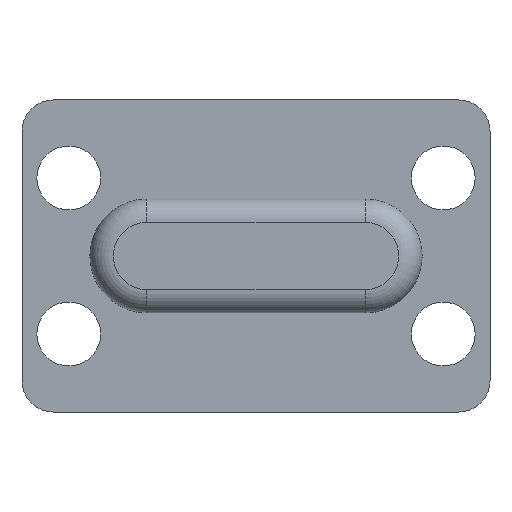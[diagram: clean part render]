
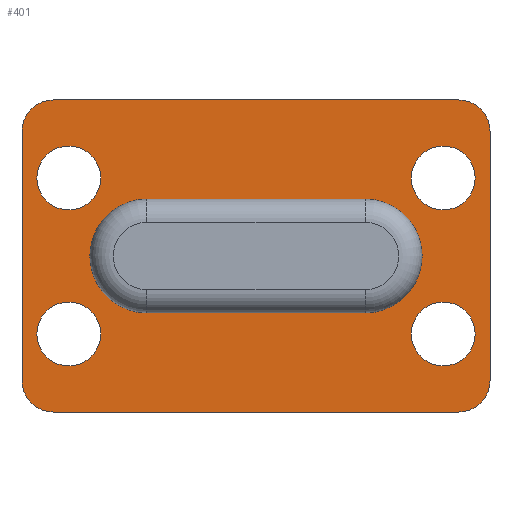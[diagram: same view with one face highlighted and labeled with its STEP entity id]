
A CAD part, left-side view. The second image highlights one B-rep face of the part: STEP entity #401.
In plain terms, the highlighted planar face has unit normal (-1, 0, 0).
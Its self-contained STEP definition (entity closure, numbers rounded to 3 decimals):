
#15=FACE_BOUND('',#68,.T.);
#16=FACE_BOUND('',#69,.T.);
#17=FACE_BOUND('',#70,.T.);
#18=FACE_BOUND('',#71,.T.);
#19=FACE_BOUND('',#72,.T.);
#27=PLANE('',#448);
#44=FACE_OUTER_BOUND('',#67,.T.);
#67=EDGE_LOOP('',(#304,#305,#306,#307,#308,#309,#310,#311));
#68=EDGE_LOOP('',(#312));
#69=EDGE_LOOP('',(#313));
#70=EDGE_LOOP('',(#314));
#71=EDGE_LOOP('',(#315));
#72=EDGE_LOOP('',(#316,#317,#318,#319));
#97=LINE('',#642,#127);
#98=LINE('',#646,#128);
#100=LINE('',#653,#130);
#101=LINE('',#657,#131);
#102=LINE('',#661,#132);
#103=LINE('',#665,#133);
#127=VECTOR('',#517,10.);
#128=VECTOR('',#522,10.);
#130=VECTOR('',#530,10.);
#131=VECTOR('',#533,10.);
#132=VECTOR('',#536,10.);
#133=VECTOR('',#539,10.);
#158=CIRCLE('',#442,1.825);
#159=CIRCLE('',#447,1.825);
#160=CIRCLE('',#449,1.);
#161=CIRCLE('',#450,1.);
#162=CIRCLE('',#451,1.);
#163=CIRCLE('',#452,1.);
#164=CIRCLE('',#453,1.025);
#165=CIRCLE('',#454,1.025);
#166=CIRCLE('',#455,1.025);
#167=CIRCLE('',#456,1.025);
#184=VERTEX_POINT('',#634);
#185=VERTEX_POINT('',#636);
#186=VERTEX_POINT('',#640);
#187=VERTEX_POINT('',#645);
#188=VERTEX_POINT('',#651);
#189=VERTEX_POINT('',#652);
#190=VERTEX_POINT('',#654);
#191=VERTEX_POINT('',#656);
#192=VERTEX_POINT('',#658);
#193=VERTEX_POINT('',#660);
#194=VERTEX_POINT('',#662);
#195=VERTEX_POINT('',#664);
#196=VERTEX_POINT('',#667);
#197=VERTEX_POINT('',#669);
#198=VERTEX_POINT('',#671);
#199=VERTEX_POINT('',#673);
#225=EDGE_CURVE('',#185,#184,#158,.F.);
#228=EDGE_CURVE('',#184,#186,#97,.F.);
#229=EDGE_CURVE('',#187,#185,#98,.F.);
#231=EDGE_CURVE('',#186,#187,#159,.F.);
#232=EDGE_CURVE('',#188,#189,#100,.T.);
#233=EDGE_CURVE('',#189,#190,#160,.T.);
#234=EDGE_CURVE('',#190,#191,#101,.T.);
#235=EDGE_CURVE('',#191,#192,#161,.T.);
#236=EDGE_CURVE('',#192,#193,#102,.T.);
#237=EDGE_CURVE('',#193,#194,#162,.T.);
#238=EDGE_CURVE('',#194,#195,#103,.T.);
#239=EDGE_CURVE('',#195,#188,#163,.T.);
#240=EDGE_CURVE('',#196,#196,#164,.T.);
#241=EDGE_CURVE('',#197,#197,#165,.T.);
#242=EDGE_CURVE('',#198,#198,#166,.T.);
#243=EDGE_CURVE('',#199,#199,#167,.T.);
#304=ORIENTED_EDGE('',*,*,#232,.T.);
#305=ORIENTED_EDGE('',*,*,#233,.T.);
#306=ORIENTED_EDGE('',*,*,#234,.T.);
#307=ORIENTED_EDGE('',*,*,#235,.T.);
#308=ORIENTED_EDGE('',*,*,#236,.T.);
#309=ORIENTED_EDGE('',*,*,#237,.T.);
#310=ORIENTED_EDGE('',*,*,#238,.T.);
#311=ORIENTED_EDGE('',*,*,#239,.T.);
#312=ORIENTED_EDGE('',*,*,#240,.T.);
#313=ORIENTED_EDGE('',*,*,#241,.T.);
#314=ORIENTED_EDGE('',*,*,#242,.T.);
#315=ORIENTED_EDGE('',*,*,#243,.T.);
#316=ORIENTED_EDGE('',*,*,#228,.T.);
#317=ORIENTED_EDGE('',*,*,#231,.T.);
#318=ORIENTED_EDGE('',*,*,#229,.T.);
#319=ORIENTED_EDGE('',*,*,#225,.T.);
#401=ADVANCED_FACE('',(#44,#15,#16,#17,#18,#19),#27,.F.);
#442=AXIS2_PLACEMENT_3D('',#637,#511,#512);
#447=AXIS2_PLACEMENT_3D('',#649,#526,#527);
#448=AXIS2_PLACEMENT_3D('',#650,#528,#529);
#449=AXIS2_PLACEMENT_3D('',#655,#531,#532);
#450=AXIS2_PLACEMENT_3D('',#659,#534,#535);
#451=AXIS2_PLACEMENT_3D('',#663,#537,#538);
#452=AXIS2_PLACEMENT_3D('',#666,#540,#541);
#453=AXIS2_PLACEMENT_3D('',#668,#542,#543);
#454=AXIS2_PLACEMENT_3D('',#670,#544,#545);
#455=AXIS2_PLACEMENT_3D('',#672,#546,#547);
#456=AXIS2_PLACEMENT_3D('',#674,#548,#549);
#511=DIRECTION('center_axis',(-1.,0.,0.));
#512=DIRECTION('ref_axis',(0.,0.,-1.));
#517=DIRECTION('',(0.,1.,0.));
#522=DIRECTION('',(0.,-1.,0.));
#526=DIRECTION('center_axis',(-1.,0.,0.));
#527=DIRECTION('ref_axis',(0.,0.,1.));
#528=DIRECTION('center_axis',(1.,0.,0.));
#529=DIRECTION('ref_axis',(0.,0.,-1.));
#530=DIRECTION('',(0.,0.,-1.));
#531=DIRECTION('center_axis',(-1.,0.,0.));
#532=DIRECTION('ref_axis',(0.,0.,-1.));
#533=DIRECTION('',(0.,-1.,0.));
#534=DIRECTION('center_axis',(-1.,0.,0.));
#535=DIRECTION('ref_axis',(0.,-1.,0.));
#536=DIRECTION('',(0.,0.,1.));
#537=DIRECTION('center_axis',(-1.,0.,0.));
#538=DIRECTION('ref_axis',(0.,0.,1.));
#539=DIRECTION('',(0.,1.,0.));
#540=DIRECTION('center_axis',(-1.,0.,0.));
#541=DIRECTION('ref_axis',(0.,1.,0.));
#542=DIRECTION('center_axis',(1.,0.,0.));
#543=DIRECTION('ref_axis',(0.,0.,-1.));
#544=DIRECTION('center_axis',(1.,0.,0.));
#545=DIRECTION('ref_axis',(0.,0.,-1.));
#546=DIRECTION('center_axis',(1.,0.,0.));
#547=DIRECTION('ref_axis',(0.,0.,-1.));
#548=DIRECTION('center_axis',(1.,0.,0.));
#549=DIRECTION('ref_axis',(0.,0.,-1.));
#634=CARTESIAN_POINT('',(2.25,61.,12.225));
#636=CARTESIAN_POINT('',(2.25,61.,8.575));
#637=CARTESIAN_POINT('Origin',(2.25,61.,10.4));
#640=CARTESIAN_POINT('',(2.25,54.,12.225));
#642=CARTESIAN_POINT('',(2.25,55.75,12.225));
#645=CARTESIAN_POINT('',(2.25,54.,8.575));
#646=CARTESIAN_POINT('',(2.25,59.25,8.575));
#649=CARTESIAN_POINT('Origin',(2.25,54.,10.4));
#650=CARTESIAN_POINT('Origin',(2.25,57.5,10.4));
#651=CARTESIAN_POINT('',(2.25,65.,14.4));
#652=CARTESIAN_POINT('',(2.25,65.,6.4));
#653=CARTESIAN_POINT('',(2.25,65.,8.4));
#654=CARTESIAN_POINT('',(2.25,64.,5.4));
#655=CARTESIAN_POINT('Origin',(2.25,64.,6.4));
#656=CARTESIAN_POINT('',(2.25,51.,5.4));
#657=CARTESIAN_POINT('',(2.25,54.25,5.4));
#658=CARTESIAN_POINT('',(2.25,50.,6.4));
#659=CARTESIAN_POINT('Origin',(2.25,51.,6.4));
#660=CARTESIAN_POINT('',(2.25,50.,14.4));
#661=CARTESIAN_POINT('',(2.25,50.,12.4));
#662=CARTESIAN_POINT('',(2.25,51.,15.4));
#663=CARTESIAN_POINT('Origin',(2.25,51.,14.4));
#664=CARTESIAN_POINT('',(2.25,64.,15.4));
#665=CARTESIAN_POINT('',(2.25,60.75,15.4));
#666=CARTESIAN_POINT('Origin',(2.25,64.,14.4));
#667=CARTESIAN_POINT('',(2.25,51.5,13.925));
#668=CARTESIAN_POINT('Origin',(2.25,51.5,12.9));
#669=CARTESIAN_POINT('',(2.25,51.5,8.925));
#670=CARTESIAN_POINT('Origin',(2.25,51.5,7.9));
#671=CARTESIAN_POINT('',(2.25,63.5,13.925));
#672=CARTESIAN_POINT('Origin',(2.25,63.5,12.9));
#673=CARTESIAN_POINT('',(2.25,63.5,8.925));
#674=CARTESIAN_POINT('Origin',(2.25,63.5,7.9));
